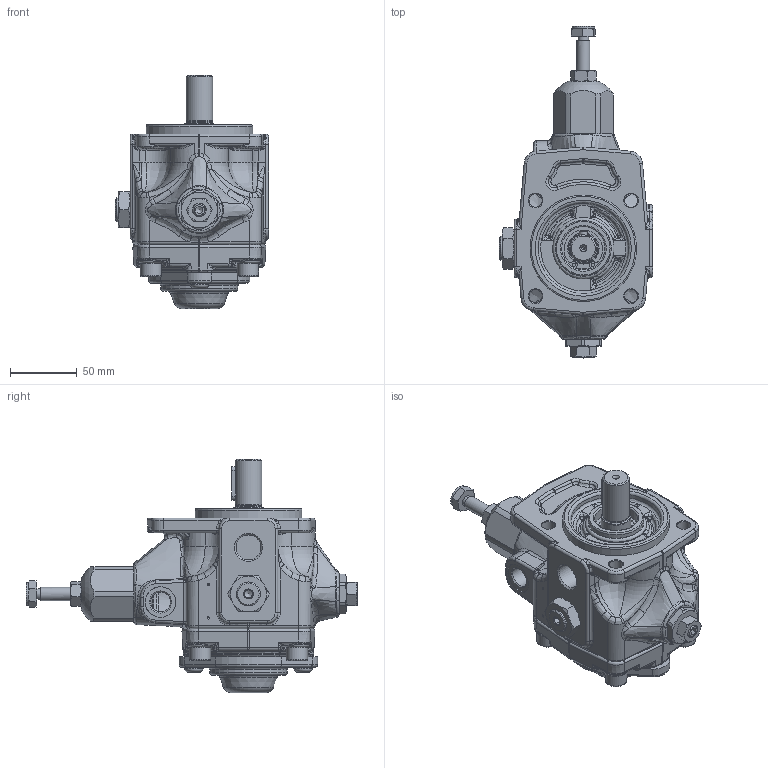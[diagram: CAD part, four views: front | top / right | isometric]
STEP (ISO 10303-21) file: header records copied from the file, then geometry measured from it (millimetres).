
FILE_DESCRIPTION(/* description */ (''),/* implementation_level */ '2;1');
FILE_NAME(/* name */ 'W:\Tecnico\Archivio\Berarma\Dimensioni Pompe\3D Export\Montaggio 3D semplificato\PLP-PHP 05\PLP05 -A.stp',/* time_stamp */ '2018-10-10T11:50:48+02:00',/* author */ ('marcop'),/* organization */ (''),/* preprocessor_version */ 'ST-DEVELOPER v17',/* originating_system */ 'Autodesk Inventor 2018',/* authorisation */ '');
FILE_SCHEMA (('AUTOMOTIVE_DESIGN { 1 0 10303 214 3 1 1 }'));
Products named in the file (1): PLP05_Shrinkwrap_1
Bounding box: 115 x 249.15 x 175 mm (x, y, z)
Volume: 893053.7 mm3; surface area: 155890.5 mm2
Topology: 2 solids, 2 shells, 1354 faces, 3297 edges, 1930 vertices
Faces by surface type: bspline 341, cylinder 333, plane 332, torus 172, cone 151, sphere 25
Full cylindrical faces by diameter (mm): 1.7 x4, 2.5 x4, 6 x3, 8 x1, 8.376 x1, 8.5 x1, 8.8 x1, 10 x7, 14 x2, 14.95 x1, 15.2 x1, 16 x4, 16.376 x1, 17 x3, 18 x1, 18.631 x1, 19.5 x2, 20 x2, 22 x4, 23 x1, 24.117 x1, 25 x2, 30 x3, 32 x2, 32.5 x1, 41.5 x1, 46 x1, 50 x1, 56 x1, 58 x2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
Entity records: 49920 total; most frequent: CARTESIAN_POINT 18801, ORIENTED_EDGE 6432, DIRECTION 6014, EDGE_CURVE 3216, AXIS2_PLACEMENT_3D 2546, VERTEX_POINT 1930, EDGE_LOOP 1436, CIRCLE 1389
